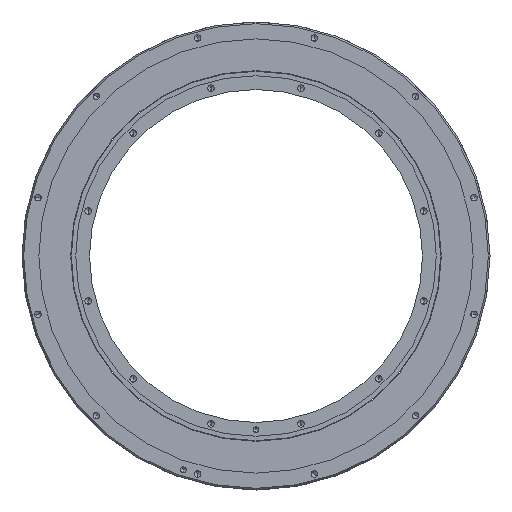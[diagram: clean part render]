
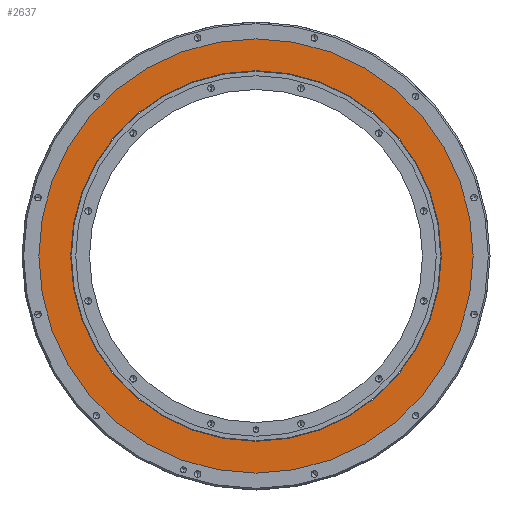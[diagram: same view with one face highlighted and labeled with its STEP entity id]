
A CAD part, front view. The second image highlights one B-rep face of the part: STEP entity #2637.
In plain terms, the highlighted planar face has unit normal (0, -1, 0).
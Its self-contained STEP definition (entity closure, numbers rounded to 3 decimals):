
#265 = CARTESIAN_POINT ( 'NONE',  ( 0., 1., 192. ) ) ;
#567 = VERTEX_POINT ( 'NONE', #5811 ) ;
#668 = EDGE_CURVE ( 'NONE', #3437, #1127, #8413, .T. ) ;
#1127 = VERTEX_POINT ( 'NONE', #9433 ) ;
#1682 = CIRCLE ( 'NONE', #3514, 192. ) ;
#1731 = DIRECTION ( 'NONE',  ( 0., 0., -1. ) ) ;
#2024 = AXIS2_PLACEMENT_3D ( 'NONE', #3566, #7940, #5720 ) ;
#2055 = EDGE_CURVE ( 'NONE', #1127, #3437, #5707, .T. ) ;
#2329 = EDGE_CURVE ( 'NONE', #4936, #567, #7775, .T. ) ;
#2439 = FACE_BOUND ( 'NONE', #7577, .T. ) ;
#2537 = CARTESIAN_POINT ( 'NONE',  ( 0., 1., 225. ) ) ;
#2637 = ADVANCED_FACE ( 'NONE', ( #5583, #2439 ), #8490, .T. ) ;
#2671 = DIRECTION ( 'NONE',  ( 0., -1., 0. ) ) ;
#3146 = CARTESIAN_POINT ( 'NONE',  ( 0., 1., 0. ) ) ;
#3296 = AXIS2_PLACEMENT_3D ( 'NONE', #7963, #2671, #7859 ) ;
#3437 = VERTEX_POINT ( 'NONE', #2537 ) ;
#3514 = AXIS2_PLACEMENT_3D ( 'NONE', #7379, #8405, #8574 ) ;
#3566 = CARTESIAN_POINT ( 'NONE',  ( 0., 1., 0. ) ) ;
#3947 = ORIENTED_EDGE ( 'NONE', *, *, #668, .T. ) ;
#4008 = ORIENTED_EDGE ( 'NONE', *, *, #2055, .T. ) ;
#4347 = AXIS2_PLACEMENT_3D ( 'NONE', #3146, #9138, #4704 ) ;
#4704 = DIRECTION ( 'NONE',  ( 0., 0., -1. ) ) ;
#4936 = VERTEX_POINT ( 'NONE', #265 ) ;
#5302 = AXIS2_PLACEMENT_3D ( 'NONE', #7730, #6180, #1731 ) ;
#5583 = FACE_OUTER_BOUND ( 'NONE', #9207, .T. ) ;
#5707 = CIRCLE ( 'NONE', #4347, 225. ) ;
#5720 = DIRECTION ( 'NONE',  ( 0., 0., -1. ) ) ;
#5811 = CARTESIAN_POINT ( 'NONE',  ( 0., 1., -192. ) ) ;
#5966 = EDGE_CURVE ( 'NONE', #567, #4936, #1682, .T. ) ;
#6180 = DIRECTION ( 'NONE',  ( 0., -1., 0. ) ) ;
#7379 = CARTESIAN_POINT ( 'NONE',  ( 0., 1., 0. ) ) ;
#7577 = EDGE_LOOP ( 'NONE', ( #7713, #9043 ) ) ;
#7713 = ORIENTED_EDGE ( 'NONE', *, *, #5966, .F. ) ;
#7730 = CARTESIAN_POINT ( 'NONE',  ( 192., 1., 0. ) ) ;
#7775 = CIRCLE ( 'NONE', #3296, 192. ) ;
#7859 = DIRECTION ( 'NONE',  ( 0., 0., -1. ) ) ;
#7940 = DIRECTION ( 'NONE',  ( 0., -1., 0. ) ) ;
#7963 = CARTESIAN_POINT ( 'NONE',  ( 0., 1., 0. ) ) ;
#8405 = DIRECTION ( 'NONE',  ( 0., -1., 0. ) ) ;
#8413 = CIRCLE ( 'NONE', #2024, 225. ) ;
#8490 = PLANE ( 'NONE',  #5302 ) ;
#8574 = DIRECTION ( 'NONE',  ( 0., 0., -1. ) ) ;
#9043 = ORIENTED_EDGE ( 'NONE', *, *, #2329, .F. ) ;
#9138 = DIRECTION ( 'NONE',  ( 0., -1., 0. ) ) ;
#9207 = EDGE_LOOP ( 'NONE', ( #4008, #3947 ) ) ;
#9433 = CARTESIAN_POINT ( 'NONE',  ( 0., 1., -225. ) ) ;
